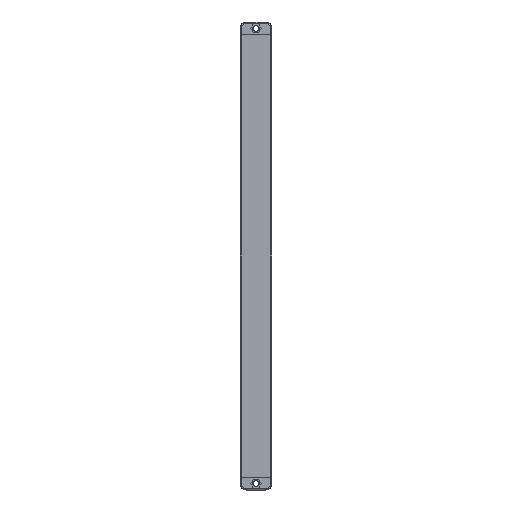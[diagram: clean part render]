
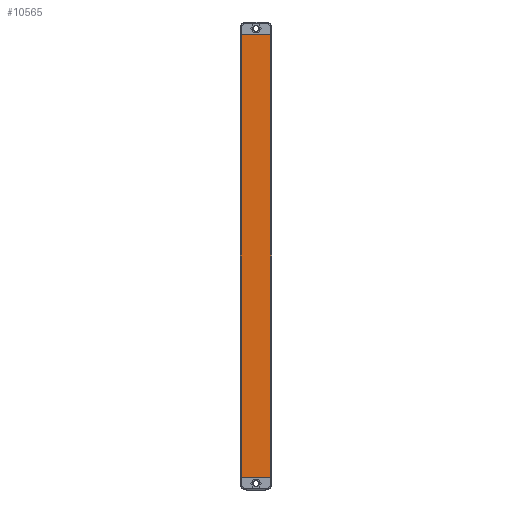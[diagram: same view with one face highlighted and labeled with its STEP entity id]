
A CAD part, front view. The second image highlights one B-rep face of the part: STEP entity #10565.
In plain terms, the highlighted planar face has unit normal (0, -1, 0).
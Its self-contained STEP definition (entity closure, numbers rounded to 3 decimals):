
#584 = VERTEX_POINT ( 'NONE', #9094 ) ;
#1032 = CARTESIAN_POINT ( 'NONE',  ( -11.5, -6., 350. ) ) ;
#1157 = CARTESIAN_POINT ( 'NONE',  ( -0.005, -6., 0. ) ) ;
#1168 = CARTESIAN_POINT ( 'NONE',  ( 11.5, -6., 350. ) ) ;
#1353 = ORIENTED_EDGE ( 'NONE', *, *, #4937, .F. ) ;
#1530 = CARTESIAN_POINT ( 'NONE',  ( -11.5, -6., 350. ) ) ;
#1881 = DIRECTION ( 'NONE',  ( 0., 1., 0. ) ) ;
#2656 = LINE ( 'NONE', #6197, #8693 ) ;
#2755 = FACE_OUTER_BOUND ( 'NONE', #5582, .T. ) ;
#4120 = VECTOR ( 'NONE', #5067, 1000. ) ;
#4237 = EDGE_CURVE ( 'NONE', #7040, #7941, #2656, .T. ) ;
#4421 = VERTEX_POINT ( 'NONE', #10386 ) ;
#4557 = DIRECTION ( 'NONE',  ( 1., 0., 0. ) ) ;
#4681 = DIRECTION ( 'NONE',  ( 1., 0., 0. ) ) ;
#4720 = EDGE_CURVE ( 'NONE', #584, #7941, #9092, .T. ) ;
#4878 = ORIENTED_EDGE ( 'NONE', *, *, #9611, .T. ) ;
#4937 = EDGE_CURVE ( 'NONE', #4421, #7040, #8966, .T. ) ;
#5067 = DIRECTION ( 'NONE',  ( 0., 0., -1. ) ) ;
#5427 = DIRECTION ( 'NONE',  ( 0., 0., 1. ) ) ;
#5582 = EDGE_LOOP ( 'NONE', ( #8360, #7497, #1353, #4878 ) ) ;
#6197 = CARTESIAN_POINT ( 'NONE',  ( 11.5, -6., 350. ) ) ;
#6294 = PLANE ( 'NONE',  #9135 ) ;
#6607 = VECTOR ( 'NONE', #4557, 1000. ) ;
#7040 = VERTEX_POINT ( 'NONE', #1168 ) ;
#7497 = ORIENTED_EDGE ( 'NONE', *, *, #4237, .F. ) ;
#7941 = VERTEX_POINT ( 'NONE', #8340 ) ;
#8340 = CARTESIAN_POINT ( 'NONE',  ( 11.5, -6., 0. ) ) ;
#8360 = ORIENTED_EDGE ( 'NONE', *, *, #4720, .T. ) ;
#8693 = VECTOR ( 'NONE', #9734, 1000. ) ;
#8966 = LINE ( 'NONE', #1032, #6607 ) ;
#9092 = LINE ( 'NONE', #1157, #11303 ) ;
#9094 = CARTESIAN_POINT ( 'NONE',  ( -11.5, -6., 0. ) ) ;
#9135 = AXIS2_PLACEMENT_3D ( 'NONE', #9824, #1881, #5427 ) ;
#9475 = LINE ( 'NONE', #1530, #4120 ) ;
#9611 = EDGE_CURVE ( 'NONE', #4421, #584, #9475, .T. ) ;
#9734 = DIRECTION ( 'NONE',  ( 0., 0., -1. ) ) ;
#9824 = CARTESIAN_POINT ( 'NONE',  ( -0.005, -6., 350. ) ) ;
#10386 = CARTESIAN_POINT ( 'NONE',  ( -11.5, -6., 350. ) ) ;
#10565 = ADVANCED_FACE ( 'NONE', ( #2755 ), #6294, .F. ) ;
#11303 = VECTOR ( 'NONE', #4681, 1000. ) ;
